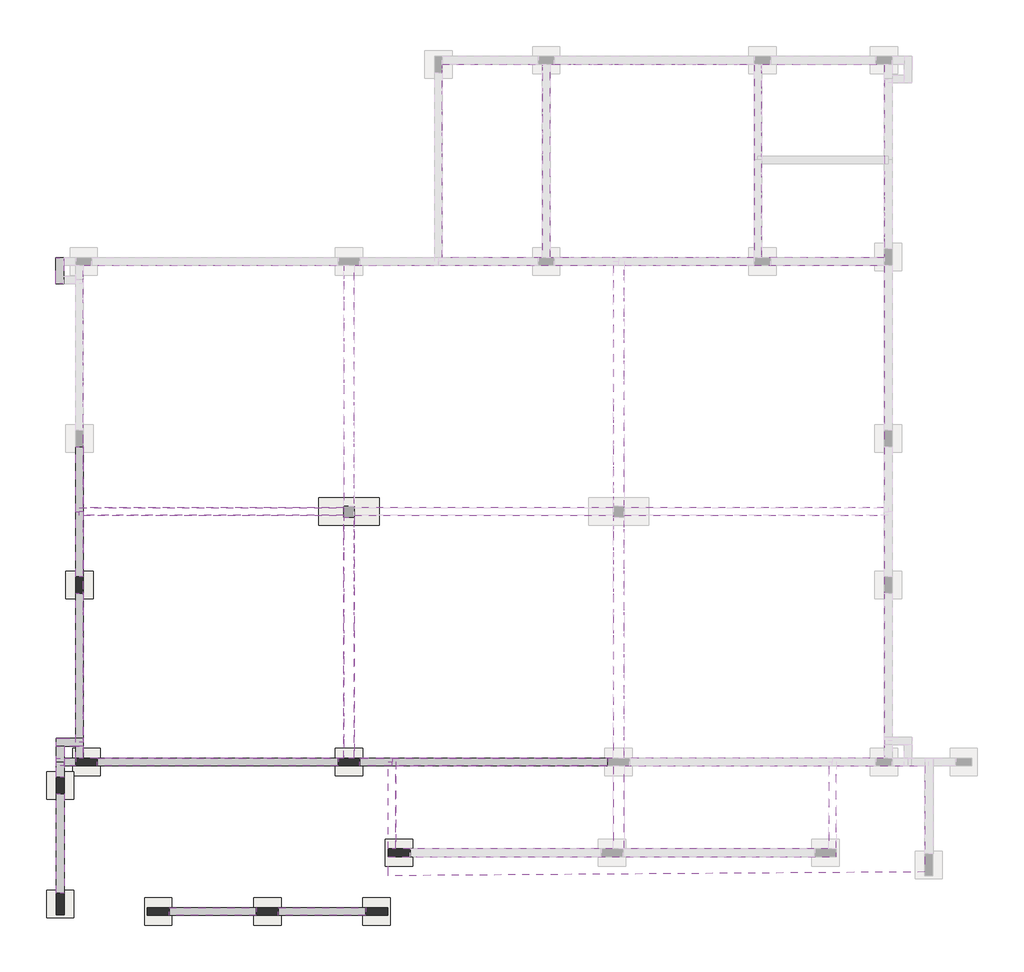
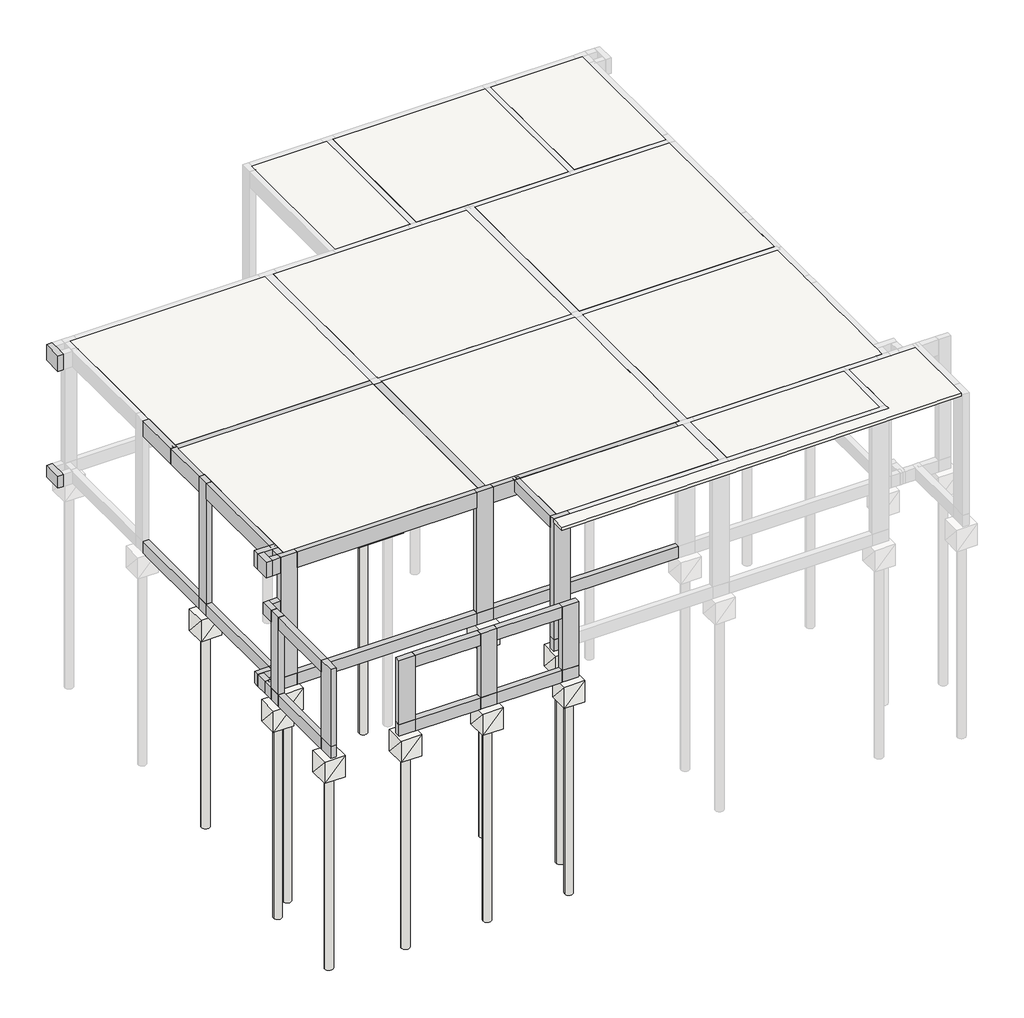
# One storey, part 1 of 3: 32 proxies, 32 slabs, 18 columns.
"""IFC4 building model written with IfcOpenShell, lengths in millimetres."""

from ifc_helpers import new_model, si_unit, frame, origin, place, context, project, spatial, polyline, outline, extrude, transform, mapped, element, save
from components import structural_framing_a2221eec, structural_framing_47468200, structural_framing_d9bc9a77, structural_framing_0b52b871, structural_framing_8d2376c2, structural_framing_396bdc43, structural_framing_0c08fe81, structural_framing_c48de238, structural_framing_7e0f138e, structural_framing_7747f7a7, structural_framing_4da262b5, structural_framing_986f890b, structural_framing_61e1da89, structural_framing_5a2c5dd1, structural_framing_02aedc1d, structural_framing_451fe4bc, structural_framing_79372c1d, structural_framing_6e33099d, structural_framing_2e0781ad, structural_framing_3535d77a, structural_framing_b05fb5b3, structural_framing_cfc1f98a, structural_framing_9f2234e0, structural_framing_bc256635, structural_framing_6112a48c, structural_framing_8a7f6f7c, structural_framing_0044cacd, slab_c764ccaf, slab_1d791855, slab_b31ccf51, slab_a00b09fe, slab_4ca8f48c, slab_9fd87269, slab_49124384, slab_84e29d04, slab_3418962d, slab_7e93051f, slab_90040733, slab_85f86137, slab_218659e0, slab_0752f4fd, slab_92ac87c9, slab_f5d0fd54, slab_b28d26c8

model = new_model("IFC4")

# Units and contexts
model_context = context("Model", 3, world=origin())
ifc_project = project(units=[si_unit("LENGTHUNIT", "METRE", prefix="MILLI")], contexts=[model_context])

# Site, building, storey
site = spatial("IfcSite", under=ifc_project)
building = spatial("IfcBuilding", under=site)
storey = spatial("IfcBuildingStorey", under=building, Name="BALDRAME-FUNDAÇÃO", Elevation=240.0)

# Proxies
placement = place(None, origin())
structural_framing_shape = structural_framing_a2221eec(model_context)
element("IfcBuildingElementProxy", 1, Name="Structural Framing", at=placement, inside=storey, context=model_context, shape_type="MappedRepresentation", body=[
    mapped(structural_framing_shape, transform((2792.8, 2810.0, 240.0), x_axis=(1.0, 0.0, 0.0), y_axis=(0.0, 1.0, 0.0), z_axis=(0.0, 0.0, 1.0))),
])
structural_framing_2_shape = structural_framing_47468200(model_context)
element("IfcBuildingElementProxy", 2, Name="Structural Framing", at=placement, inside=storey, context=model_context, shape_type="MappedRepresentation", body=[
    mapped(structural_framing_2_shape, transform((55.0, 2810.0, 240.0), x_axis=(1.0, 0.0, 0.0), y_axis=(0.0, 1.0, 0.0), z_axis=(0.0, 0.0, 1.0))),
])
structural_framing_3_shape = structural_framing_d9bc9a77(model_context)
element("IfcBuildingElementProxy", 3, Name="Structural Framing", at=placement, inside=storey, context=model_context, shape_type="MappedRepresentation", body=[
    mapped(structural_framing_3_shape, transform((7653.45, 2810.0, 240.0), x_axis=(1.0, 0.0, 0.0), y_axis=(0.0, 1.0, 0.0), z_axis=(0.0, 0.0, 1.0))),
])
structural_framing_4_shape = structural_framing_0b52b871(model_context)
element("IfcBuildingElementProxy", 4, Name="Structural Framing", at=placement, inside=storey, context=model_context, shape_type="MappedRepresentation", body=[
    mapped(structural_framing_4_shape, transform((-85.0, 2955.0599986, 240.0), x_axis=(1.0, 0.0, 0.0), y_axis=(0.0, 1.0, 0.0), z_axis=(0.0, 0.0, 1.0))),
])
structural_framing_5_shape = structural_framing_8d2376c2(model_context)
element("IfcBuildingElementProxy", 5, Name="Structural Framing", at=placement, inside=storey, context=model_context, shape_type="MappedRepresentation", body=[
    mapped(structural_framing_5_shape, transform((90.0, 3170.05, 240.0), x_axis=(1.0, 0.0, 0.0), y_axis=(0.0, 1.0, 0.0), z_axis=(0.0, 0.0, 1.0))),
])
structural_framing_6_shape = structural_framing_396bdc43(model_context)
element("IfcBuildingElementProxy", 6, Name="Structural Framing", at=placement, inside=storey, context=model_context, shape_type="MappedRepresentation", body=[
    mapped(structural_framing_6_shape, transform((265.0, 7382.6, 240.0), x_axis=(1.0, 0.0, 0.0), y_axis=(0.0, 1.0, 0.0), z_axis=(0.0, 0.0, 1.0))),
])
structural_framing_7_shape = structural_framing_0c08fe81(model_context)
element("IfcBuildingElementProxy", 7, Name="Structural Framing", at=placement, inside=storey, context=model_context, shape_type="MappedRepresentation", body=[
    mapped(structural_framing_7_shape, transform((-85.0, 2670.65, 240.0), x_axis=(1.0, 0.0, 0.0), y_axis=(0.0, 1.0, 0.0), z_axis=(0.0, 0.0, 1.0))),
])
structural_framing_8_shape = structural_framing_c48de238(model_context)
element("IfcBuildingElementProxy", 8, Name="Structural Framing", at=placement, inside=storey, context=model_context, shape_type="MappedRepresentation", body=[
    mapped(structural_framing_8_shape, transform((-85.0, 1323.15, 240.0), x_axis=(1.0, 0.0, 0.0), y_axis=(0.0, 1.0, 0.0), z_axis=(0.0, 0.0, 1.0))),
])
structural_framing_9_shape = structural_framing_7e0f138e(model_context)
element("IfcBuildingElementProxy", 9, Name="Structural Framing", at=placement, inside=storey, context=model_context, shape_type="MappedRepresentation", body=[
    mapped(structural_framing_9_shape, transform((4697.5, 75.0, 240.0), x_axis=(1.0, 0.0, 0.0), y_axis=(0.0, 1.0, 0.0), z_axis=(0.0, 0.0, 1.0))),
])
element("IfcBuildingElementProxy", 10, Name="Structural Framing", at=placement, inside=storey, context=model_context, shape_type="MappedRepresentation", body=[
    mapped(structural_framing_9_shape, transform((2702.5, 75.0, 240.0), x_axis=(1.0, 0.0, 0.0), y_axis=(0.0, 1.0, 0.0), z_axis=(0.0, 0.0, 1.0))),
])
structural_framing_10_shape = structural_framing_7747f7a7(model_context)
element("IfcBuildingElementProxy", 11, Name="Structural Framing", at=placement, inside=storey, context=model_context, shape_type="MappedRepresentation", body=[
    mapped(structural_framing_10_shape, transform((265.0, 4532.5, 240.0), x_axis=(1.0, 0.0, 0.0), y_axis=(0.0, 1.0, 0.0), z_axis=(0.0, 0.0, 1.0))),
])
structural_framing_11_shape = structural_framing_4da262b5(model_context)
element("IfcBuildingElementProxy", 12, Name="Structural Framing", at=placement, inside=storey, context=model_context, shape_type="MappedRepresentation", body=[
    mapped(structural_framing_11_shape, transform((265.0, 2990.0099986, 240.0), x_axis=(1.0, 0.0, 0.0), y_axis=(0.0, 1.0, 0.0), z_axis=(0.0, 0.0, 1.0))),
])
structural_framing_12_shape = structural_framing_986f890b(model_context)
element("IfcBuildingElementProxy", 13, Name="Structural Framing", at=placement, inside=storey, context=model_context, shape_type="MappedRepresentation", body=[
    mapped(structural_framing_12_shape, transform((-95.0, 11785.2, 240.0), x_axis=(1.0, 0.0, 0.0), y_axis=(0.0, 1.0, 0.0), z_axis=(0.0, 0.0, 1.0))),
])
structural_framing_13_shape = structural_framing_61e1da89(model_context)
element("IfcBuildingElementProxy", 14, Name="Structural Framing", at=placement, inside=storey, context=model_context, shape_type="MappedRepresentation", body=[
    mapped(structural_framing_13_shape, transform((-85.0, 2705.6625022, 2240.0), x_axis=(1.0, 0.0, 0.0), y_axis=(0.0, 1.0, 0.0), z_axis=(0.0, 0.0, 1.0))),
])
element("IfcBuildingElementProxy", 15, Name="Structural Framing", at=placement, inside=storey, context=model_context, shape_type="MappedRepresentation", body=[
    mapped(structural_framing_8_shape, transform((-85.0, 1323.15, 2240.0), x_axis=(1.0, 0.0, 0.0), y_axis=(0.0, 1.0, 0.0), z_axis=(0.0, 0.0, 1.0))),
])
structural_framing_14_shape = structural_framing_5a2c5dd1(model_context)
element("IfcBuildingElementProxy", 16, Name="Structural Framing", at=placement, inside=storey, context=model_context, shape_type="MappedRepresentation", body=[
    mapped(structural_framing_14_shape, transform((5190.6, 5081.3, 3360.0), x_axis=(1.0, 0.0, 0.0), y_axis=(0.0, 1.0, 0.0), z_axis=(0.0, 0.0, 1.0))),
])
structural_framing_15_shape = structural_framing_02aedc1d(model_context)
element("IfcBuildingElementProxy", 17, Name="Structural Framing", at=placement, inside=storey, context=model_context, shape_type="MappedRepresentation", body=[
    mapped(structural_framing_15_shape, transform((265.0, 4532.5, 3360.0), x_axis=(1.0, 0.0, 0.0), y_axis=(0.0, 1.0, 0.0), z_axis=(0.0, 0.0, 1.0))),
])
structural_framing_16_shape = structural_framing_451fe4bc(model_context)
element("IfcBuildingElementProxy", 18, Name="Structural Framing", at=placement, inside=storey, context=model_context, shape_type="MappedRepresentation", body=[
    mapped(structural_framing_16_shape, transform((265.0, 2987.5, 3360.0), x_axis=(1.0, 0.0, 0.0), y_axis=(0.0, 1.0, 0.0), z_axis=(0.0, 0.0, 1.0))),
])
structural_framing_17_shape = structural_framing_79372c1d(model_context)
element("IfcBuildingElementProxy", 19, Name="Structural Framing", at=placement, inside=storey, context=model_context, shape_type="MappedRepresentation", body=[
    mapped(structural_framing_17_shape, transform((2677.8, 7382.6, 3360.0), x_axis=(1.0, 0.0, 0.0), y_axis=(0.0, 1.0, 0.0), z_axis=(0.0, 0.0, 1.0))),
])
structural_framing_18_shape = structural_framing_6e33099d(model_context)
element("IfcBuildingElementProxy", 20, Name="Structural Framing", at=placement, inside=storey, context=model_context, shape_type="MappedRepresentation", body=[
    mapped(structural_framing_18_shape, transform((89.9875, 2809.9375045, 2240.0), x_axis=(1.0, 0.0, 0.0), y_axis=(0.0, 1.0, 0.0), z_axis=(0.0, 0.0, 1.0))),
])
structural_framing_19_shape = structural_framing_2e0781ad(model_context)
element("IfcBuildingElementProxy", 21, Name="Structural Framing", at=placement, inside=storey, context=model_context, shape_type="MappedRepresentation", body=[
    mapped(structural_framing_19_shape, transform((-85.0, 2917.4866049, 3360.0), x_axis=(1.0, 0.0, 0.0), y_axis=(0.0, 1.0, 0.0), z_axis=(0.0, 0.0, 1.0))),
])
structural_framing_20_shape = structural_framing_3535d77a(model_context)
element("IfcBuildingElementProxy", 22, Name="Structural Framing", at=placement, inside=storey, context=model_context, shape_type="MappedRepresentation", body=[
    mapped(structural_framing_20_shape, transform((87.5, 3170.0, 3360.0), x_axis=(1.0, 0.0, 0.0), y_axis=(0.0, 1.0, 0.0), z_axis=(0.0, 0.0, 1.0))),
])
structural_framing_21_shape = structural_framing_b05fb5b3(model_context)
element("IfcBuildingElementProxy", 23, Name="Structural Framing", at=placement, inside=storey, context=model_context, shape_type="MappedRepresentation", body=[
    mapped(structural_framing_21_shape, transform((-95.0, 11785.2, 3360.0), x_axis=(1.0, 0.0, 0.0), y_axis=(0.0, 1.0, 0.0), z_axis=(0.0, 0.0, 1.0))),
])
element("IfcBuildingElementProxy", 24, Name="Structural Framing", at=placement, inside=storey, context=model_context, shape_type="MappedRepresentation", body=[
    mapped(structural_framing_9_shape, transform((2702.5, 75.0, 1890.0), x_axis=(1.0, 0.0, 0.0), y_axis=(0.0, 1.0, 0.0), z_axis=(0.0, 0.0, 1.0))),
])
element("IfcBuildingElementProxy", 25, Name="Structural Framing", at=placement, inside=storey, context=model_context, shape_type="MappedRepresentation", body=[
    mapped(structural_framing_9_shape, transform((4697.5, 75.0, 1890.0), x_axis=(1.0, 0.0, 0.0), y_axis=(0.0, 1.0, 0.0), z_axis=(0.0, 0.0, 1.0))),
])
structural_framing_22_shape = structural_framing_cfc1f98a(model_context)
element("IfcBuildingElementProxy", 26, Name="Structural Framing", at=placement, inside=storey, context=model_context, shape_type="MappedRepresentation", body=[
    mapped(structural_framing_22_shape, transform((7946.6, 2810.0, 3360.0), x_axis=(1.0, 0.0, 0.0), y_axis=(0.0, 1.0, 0.0), z_axis=(0.0, 0.0, 1.0))),
])
structural_framing_23_shape = structural_framing_9f2234e0(model_context)
element("IfcBuildingElementProxy", 27, Name="Structural Framing", at=placement, inside=storey, context=model_context, shape_type="MappedRepresentation", body=[
    mapped(structural_framing_23_shape, transform((5683.75, 2810.0, 3360.0), x_axis=(1.0, 0.0, 0.0), y_axis=(0.0, 1.0, 0.0), z_axis=(0.0, 0.0, 1.0))),
])
structural_framing_24_shape = structural_framing_bc256635(model_context)
element("IfcBuildingElementProxy", 28, Name="Structural Framing", at=placement, inside=storey, context=model_context, shape_type="MappedRepresentation", body=[
    mapped(structural_framing_24_shape, transform((5976.9, 2015.0, 3360.0), x_axis=(1.0, 0.0, 0.0), y_axis=(0.0, 1.0, 0.0), z_axis=(0.0, 0.0, 1.0))),
])
structural_framing_25_shape = structural_framing_6112a48c(model_context)
element("IfcBuildingElementProxy", 29, Name="Structural Framing", at=placement, inside=storey, context=model_context, shape_type="MappedRepresentation", body=[
    mapped(structural_framing_25_shape, transform((2792.8, 2809.95, 3360.0), x_axis=(1.0, 0.0, 0.0), y_axis=(0.0, 1.0, 0.0), z_axis=(0.0, 0.0, 1.0))),
])
structural_framing_26_shape = structural_framing_8a7f6f7c(model_context)
element("IfcBuildingElementProxy", 30, Name="Structural Framing", at=placement, inside=storey, context=model_context, shape_type="MappedRepresentation", body=[
    mapped(structural_framing_26_shape, transform((92.4875, 2809.9366116, 3360.0), x_axis=(1.0, 0.0, 0.0), y_axis=(0.0, 1.0, 0.0), z_axis=(0.0, 0.0, 1.0))),
])
structural_framing_27_shape = structural_framing_0044cacd(model_context)
element("IfcBuildingElementProxy", 31, Name="Structural Framing", at=placement, inside=storey, context=model_context, shape_type="MappedRepresentation", body=[
    mapped(structural_framing_27_shape, transform((265.0, 6788.8, 3360.0), x_axis=(1.0, 0.0, 0.0), y_axis=(0.0, 1.0, 0.0), z_axis=(0.0, 0.0, 1.0))),
])
element("IfcBuildingElementProxy", 32, Name="Structural Framing", at=placement, inside=storey, context=model_context, shape_type="MappedRepresentation", body=[
    mapped(structural_framing_27_shape, transform((265.0, 7976.4, 3360.0), x_axis=(1.0, 0.0, 0.0), y_axis=(0.0, 1.0, 0.0), z_axis=(0.0, 0.0, 1.0))),
])

# Columns
element("IfcColumn", 33, at=placement, inside=storey, context=model_context, shape_type="SweptSolid", body=[
    extrude(outline(polyline([(595.0, 2880.0), (595.0, 2740.0), (195.0, 2740.0), (195.0, 2880.0), (595.0, 2880.0)])), frame((0.0, 0.0, -60.0), z_axis=(0.0, 0.0, 1.0), x_axis=(1.0, 0.0, 0.0)), (0.0, 0.0, 1.0), 300.0),
    extrude(outline(polyline([(595.0, 2880.0), (595.0, 2740.0), (195.0, 2740.0), (195.0, 2880.0), (595.0, 2880.0)])), frame((0.0, 0.0, -60.0), z_axis=(0.0, 0.0, 1.0), x_axis=(1.0, 0.0, 0.0)), (0.0, 0.0, 1.0), 300.0),
])
element("IfcColumn", 34, at=placement, inside=storey, context=model_context, shape_type="SweptSolid", body=[
    extrude(outline(polyline([(-15.0, 2231.3), (-155.0, 2231.3), (-155.0, 2531.3), (-15.0, 2531.3), (-15.0, 2231.3)])), frame((0.0, 0.0, -60.0), z_axis=(0.0, 0.0, 1.0), x_axis=(1.0, 0.0, 0.0)), (0.0, 0.0, 1.0), 300.0),
    extrude(outline(polyline([(-15.0, 2231.3), (-155.0, 2231.3), (-155.0, 2531.3), (-15.0, 2531.3), (-15.0, 2231.3)])), frame((0.0, 0.0, -60.0), z_axis=(0.0, 0.0, 1.0), x_axis=(1.0, 0.0, 0.0)), (0.0, 0.0, 1.0), 300.0),
])
element("IfcColumn", 35, at=placement, inside=storey, context=model_context, shape_type="SweptSolid", body=[
    extrude(outline(polyline([(195.0, 6195.0), (335.0, 6195.0), (335.0, 5895.0), (195.0, 5895.0), (195.0, 6195.0)])), frame((0.0, 0.0, -60.0), z_axis=(0.0, 0.0, 1.0), x_axis=(1.0, 0.0, 0.0)), (0.0, 0.0, 1.0), 300.0),
    extrude(outline(polyline([(195.0, 6195.0), (335.0, 6195.0), (335.0, 5895.0), (195.0, 5895.0), (195.0, 6195.0)])), frame((0.0, 0.0, -60.0), z_axis=(0.0, 0.0, 1.0), x_axis=(1.0, 0.0, 0.0)), (0.0, 0.0, 1.0), 300.0),
])
element("IfcColumn", 36, at=placement, inside=storey, context=model_context, shape_type="SweptSolid", body=[
    extrude(outline(polyline([(1905.0, 145.0), (1905.0, 5.0), (1505.0, 5.0), (1505.0, 145.0), (1905.0, 145.0)])), frame((0.0, 0.0, -60.0), z_axis=(0.0, 0.0, 1.0), x_axis=(1.0, 0.0, 0.0)), (0.0, 0.0, 1.0), 300.0),
    extrude(outline(polyline([(1905.0, 145.0), (1905.0, 5.0), (1505.0, 5.0), (1505.0, 145.0), (1905.0, 145.0)])), frame((0.0, 0.0, -60.0), z_axis=(0.0, 0.0, 1.0), x_axis=(1.0, 0.0, 0.0)), (0.0, 0.0, 1.0), 300.0),
])
element("IfcColumn", 37, at=placement, inside=storey, context=model_context, shape_type="SweptSolid", body=[
    extrude(outline(polyline([(5390.6, 2880.0), (5390.6, 2740.0), (4990.6, 2740.0), (4990.6, 2880.0), (5390.6, 2880.0)])), frame((0.0, 0.0, -60.0), z_axis=(0.0, 0.0, 1.0), x_axis=(1.0, 0.0, 0.0)), (0.0, 0.0, 1.0), 300.0),
    extrude(outline(polyline([(5390.6, 2880.0), (5390.6, 2740.0), (4990.6, 2740.0), (4990.6, 2880.0), (5390.6, 2880.0)])), frame((0.0, 0.0, -60.0), z_axis=(0.0, 0.0, 1.0), x_axis=(1.0, 0.0, 0.0)), (0.0, 0.0, 1.0), 300.0),
])
element("IfcColumn", 38, at=placement, inside=storey, context=model_context, shape_type="SweptSolid", body=[
    extrude(outline(polyline([(3900.0, 145.0), (3900.0, 5.0), (3500.0, 5.0), (3500.0, 145.0), (3900.0, 145.0)])), frame((0.0, 0.0, -60.0), z_axis=(0.0, 0.0, 1.0), x_axis=(1.0, 0.0, 0.0)), (0.0, 0.0, 1.0), 300.0),
    extrude(outline(polyline([(3900.0, 145.0), (3900.0, 5.0), (3500.0, 5.0), (3500.0, 145.0), (3900.0, 145.0)])), frame((0.0, 0.0, -60.0), z_axis=(0.0, 0.0, 1.0), x_axis=(1.0, 0.0, 0.0)), (0.0, 0.0, 1.0), 300.0),
])
element("IfcColumn", 39, at=placement, inside=storey, context=model_context, shape_type="SweptSolid", body=[
    extrude(outline(polyline([(5895.0, 145.0), (5895.0, 5.0), (5495.0, 5.0), (5495.0, 145.0), (5895.0, 145.0)])), frame((0.0, 0.0, -60.0), z_axis=(0.0, 0.0, 1.0), x_axis=(1.0, 0.0, 0.0)), (0.0, 0.0, 1.0), 300.0),
    extrude(outline(polyline([(5895.0, 145.0), (5895.0, 5.0), (5495.0, 5.0), (5495.0, 145.0), (5895.0, 145.0)])), frame((0.0, 0.0, -60.0), z_axis=(0.0, 0.0, 1.0), x_axis=(1.0, 0.0, 0.0)), (0.0, 0.0, 1.0), 300.0),
])
element("IfcColumn", 40, at=placement, inside=storey, context=model_context, shape_type="SweptSolid", body=[
    extrude(outline(polyline([(6306.9, 1220.0), (6306.9, 1080.0), (5906.9, 1080.0), (5906.9, 1220.0), (6306.9, 1220.0)])), frame((0.0, 0.0, -60.0), z_axis=(0.0, 0.0, 1.0), x_axis=(1.0, 0.0, 0.0)), (0.0, 0.0, 1.0), 300.0),
    extrude(outline(polyline([(6306.9, 1220.0), (6306.9, 1080.0), (5906.9, 1080.0), (5906.9, 1220.0), (6306.9, 1220.0)])), frame((0.0, 0.0, -60.0), z_axis=(0.0, 0.0, 1.0), x_axis=(1.0, 0.0, 0.0)), (0.0, 0.0, 1.0), 300.0),
])
element("IfcColumn", 41, at=placement, inside=storey, context=model_context, shape_type="SweptSolid", body=[
    extrude(outline(polyline([(-15.0, 15.0), (-155.0, 15.0), (-155.0, 415.0), (-15.0, 415.0), (-15.0, 15.0)])), frame((0.0, 0.0, -60.0), z_axis=(0.0, 0.0, 1.0), x_axis=(1.0, 0.0, 0.0)), (0.0, 0.0, 1.0), 300.0),
    extrude(outline(polyline([(-15.0, 15.0), (-155.0, 15.0), (-155.0, 415.0), (-15.0, 415.0), (-15.0, 15.0)])), frame((0.0, 0.0, -60.0), z_axis=(0.0, 0.0, 1.0), x_axis=(1.0, 0.0, 0.0)), (0.0, 0.0, 1.0), 300.0),
])
element("IfcColumn", 42, at=placement, inside=storey, context=model_context, shape_type="SweptSolid", body=[
    extrude(outline(polyline([(595.0, 2880.0), (595.0, 2740.0), (195.0, 2740.0), (195.0, 2880.0), (595.0, 2880.0)])), frame((0.0, 0.0, 240.0), z_axis=(0.0, 0.0, 1.0), x_axis=(1.0, 0.0, 0.0)), (0.0, 0.0, 1.0), 3120.0),
    extrude(outline(polyline([(595.0, 2880.0), (595.0, 2740.0), (195.0, 2740.0), (195.0, 2880.0), (595.0, 2880.0)])), frame((0.0, 0.0, 240.0), z_axis=(0.0, 0.0, 1.0), x_axis=(1.0, 0.0, 0.0)), (0.0, 0.0, 1.0), 3120.0),
])
element("IfcColumn", 43, at=placement, inside=storey, context=model_context, shape_type="SweptSolid", body=[
    extrude(outline(polyline([(5390.6, 2880.0), (5390.6, 2740.0), (4990.6, 2740.0), (4990.6, 2880.0), (5390.6, 2880.0)])), frame((0.0, 0.0, 240.0), z_axis=(0.0, 0.0, 1.0), x_axis=(1.0, 0.0, 0.0)), (0.0, 0.0, 1.0), 3120.0),
    extrude(outline(polyline([(5390.6, 2880.0), (5390.6, 2740.0), (4990.6, 2740.0), (4990.6, 2880.0), (5390.6, 2880.0)])), frame((0.0, 0.0, 240.0), z_axis=(0.0, 0.0, 1.0), x_axis=(1.0, 0.0, 0.0)), (0.0, 0.0, 1.0), 3120.0),
])
element("IfcColumn", 44, at=placement, inside=storey, context=model_context, shape_type="SweptSolid", body=[
    extrude(outline(polyline([(-15.0, 2231.3), (-155.0, 2231.3), (-155.0, 2531.3), (-15.0, 2531.3), (-15.0, 2231.3)])), frame((0.0, 0.0, 240.0), z_axis=(0.0, 0.0, 1.0), x_axis=(1.0, 0.0, 0.0)), (0.0, 0.0, 1.0), 2000.0),
    extrude(outline(polyline([(-15.0, 2231.3), (-155.0, 2231.3), (-155.0, 2531.3), (-15.0, 2531.3), (-15.0, 2231.3)])), frame((0.0, 0.0, 240.0), z_axis=(0.0, 0.0, 1.0), x_axis=(1.0, 0.0, 0.0)), (0.0, 0.0, 1.0), 2000.0),
])
element("IfcColumn", 45, at=placement, inside=storey, context=model_context, shape_type="SweptSolid", body=[
    extrude(outline(polyline([(195.0, 6195.0), (335.0, 6195.0), (335.0, 5895.0), (195.0, 5895.0), (195.0, 6195.0)])), frame((0.0, 0.0, 240.0), z_axis=(0.0, 0.0, 1.0), x_axis=(1.0, 0.0, 0.0)), (0.0, 0.0, 1.0), 3120.0),
    extrude(outline(polyline([(195.0, 6195.0), (335.0, 6195.0), (335.0, 5895.0), (195.0, 5895.0), (195.0, 6195.0)])), frame((0.0, 0.0, 240.0), z_axis=(0.0, 0.0, 1.0), x_axis=(1.0, 0.0, 0.0)), (0.0, 0.0, 1.0), 3120.0),
])
element("IfcColumn", 46, at=placement, inside=storey, context=model_context, shape_type="SweptSolid", body=[
    extrude(outline(polyline([(6306.9, 1220.0), (6306.9, 1080.0), (5906.9, 1080.0), (5906.9, 1220.0), (6306.9, 1220.0)])), frame((0.0, 0.0, 240.0), z_axis=(0.0, 0.0, 1.0), x_axis=(1.0, 0.0, 0.0)), (0.0, 0.0, 1.0), 3120.0),
    extrude(outline(polyline([(6306.9, 1220.0), (6306.9, 1080.0), (5906.9, 1080.0), (5906.9, 1220.0), (6306.9, 1220.0)])), frame((0.0, 0.0, 240.0), z_axis=(0.0, 0.0, 1.0), x_axis=(1.0, 0.0, 0.0)), (0.0, 0.0, 1.0), 3120.0),
])
element("IfcColumn", 47, at=placement, inside=storey, context=model_context, shape_type="SweptSolid", body=[
    extrude(outline(polyline([(1905.0, 145.0), (1905.0, 5.0), (1505.0, 5.0), (1505.0, 145.0), (1905.0, 145.0)])), frame((0.0, 0.0, 240.0), z_axis=(0.0, 0.0, 1.0), x_axis=(1.0, 0.0, 0.0)), (0.0, 0.0, 1.0), 1650.0),
    extrude(outline(polyline([(1905.0, 145.0), (1905.0, 5.0), (1505.0, 5.0), (1505.0, 145.0), (1905.0, 145.0)])), frame((0.0, 0.0, 240.0), z_axis=(0.0, 0.0, 1.0), x_axis=(1.0, 0.0, 0.0)), (0.0, 0.0, 1.0), 1650.0),
])
element("IfcColumn", 48, at=placement, inside=storey, context=model_context, shape_type="SweptSolid", body=[
    extrude(outline(polyline([(5895.0, 145.0), (5895.0, 5.0), (5495.0, 5.0), (5495.0, 145.0), (5895.0, 145.0)])), frame((0.0, 0.0, 240.0), z_axis=(0.0, 0.0, 1.0), x_axis=(1.0, 0.0, 0.0)), (0.0, 0.0, 1.0), 1650.0),
    extrude(outline(polyline([(5895.0, 145.0), (5895.0, 5.0), (5495.0, 5.0), (5495.0, 145.0), (5895.0, 145.0)])), frame((0.0, 0.0, 240.0), z_axis=(0.0, 0.0, 1.0), x_axis=(1.0, 0.0, 0.0)), (0.0, 0.0, 1.0), 1650.0),
])
element("IfcColumn", 49, at=placement, inside=storey, context=model_context, shape_type="SweptSolid", body=[
    extrude(outline(polyline([(3900.0, 145.0), (3900.0, 5.0), (3500.0, 5.0), (3500.0, 145.0), (3900.0, 145.0)])), frame((0.0, 0.0, 240.0), z_axis=(0.0, 0.0, 1.0), x_axis=(1.0, 0.0, 0.0)), (0.0, 0.0, 1.0), 1650.0),
    extrude(outline(polyline([(3900.0, 145.0), (3900.0, 5.0), (3500.0, 5.0), (3500.0, 145.0), (3900.0, 145.0)])), frame((0.0, 0.0, 240.0), z_axis=(0.0, 0.0, 1.0), x_axis=(1.0, 0.0, 0.0)), (0.0, 0.0, 1.0), 1650.0),
])
element("IfcColumn", 50, at=placement, inside=storey, context=model_context, shape_type="SweptSolid", body=[
    extrude(outline(polyline([(-15.0, 15.0), (-155.0, 15.0), (-155.0, 415.0), (-15.0, 415.0), (-15.0, 15.0)])), frame((0.0, 0.0, 240.0), z_axis=(0.0, 0.0, 1.0), x_axis=(1.0, 0.0, 0.0)), (0.0, 0.0, 1.0), 2000.0),
    extrude(outline(polyline([(-15.0, 15.0), (-155.0, 15.0), (-155.0, 415.0), (-15.0, 415.0), (-15.0, 15.0)])), frame((0.0, 0.0, 240.0), z_axis=(0.0, 0.0, 1.0), x_axis=(1.0, 0.0, 0.0)), (0.0, 0.0, 1.0), 2000.0),
])

# Slabs
slab_shape = slab_c764ccaf(model_context)
element("IfcSlab", 51, at=placement, inside=storey, context=model_context, shape_type="MappedRepresentation", body=[
    mapped(slab_shape, transform((395.0, 2810.0, -60.0), x_axis=(1.0, 0.0, 0.0), y_axis=(0.0, 1.0, 0.0), z_axis=(0.0, 0.0, 1.0))),
])
slab_2_shape = slab_1d791855(model_context)
element("IfcSlab", 52, at=placement, inside=storey, context=model_context, shape_type="MappedRepresentation", body=[
    mapped(slab_2_shape, transform((395.0, 2810.0, -460.0), x_axis=(1.0, 0.0, 0.0), y_axis=(0.0, 1.0, 0.0), z_axis=(0.0, 0.0, 1.0))),
])
element("IfcSlab", 53, at=placement, inside=storey, context=model_context, shape_type="MappedRepresentation", body=[
    mapped(slab_shape, transform((5190.6, 2810.0, -60.0), x_axis=(1.0, 0.0, 0.0), y_axis=(0.0, 1.0, 0.0), z_axis=(0.0, 0.0, 1.0))),
])
element("IfcSlab", 54, at=placement, inside=storey, context=model_context, shape_type="MappedRepresentation", body=[
    mapped(slab_2_shape, transform((5190.6, 2810.0, -460.0), x_axis=(1.0, 0.0, 0.0), y_axis=(0.0, 1.0, 0.0), z_axis=(0.0, 0.0, 1.0))),
])
element("IfcSlab", 55, at=placement, inside=storey, context=model_context, shape_type="MappedRepresentation", body=[
    mapped(slab_shape, transform((3700.0, 75.0, -60.0), x_axis=(1.0, 0.0, 0.0), y_axis=(0.0, 1.0, 0.0), z_axis=(0.0, 0.0, 1.0))),
])
element("IfcSlab", 56, at=placement, inside=storey, context=model_context, shape_type="MappedRepresentation", body=[
    mapped(slab_shape, transform((6106.9, 1150.0, -60.0), x_axis=(1.0, 0.0, 0.0), y_axis=(0.0, 1.0, 0.0), z_axis=(0.0, 0.0, 1.0))),
])
element("IfcSlab", 57, at=placement, inside=storey, context=model_context, shape_type="MappedRepresentation", body=[
    mapped(slab_2_shape, transform((6106.9, 1150.0, -460.0), x_axis=(1.0, 0.0, 0.0), y_axis=(0.0, 1.0, 0.0), z_axis=(0.0, 0.0, 1.0))),
])
element("IfcSlab", 58, at=placement, inside=storey, context=model_context, shape_type="MappedRepresentation", body=[
    mapped(slab_shape, transform((1705.0, 75.0, -60.0), x_axis=(1.0, 0.0, 0.0), y_axis=(0.0, 1.0, 0.0), z_axis=(0.0, 0.0, 1.0))),
])
element("IfcSlab", 59, at=placement, inside=storey, context=model_context, shape_type="MappedRepresentation", body=[
    mapped(slab_2_shape, transform((1705.0, 75.0, -460.0), x_axis=(1.0, 0.0, 0.0), y_axis=(0.0, 1.0, 0.0), z_axis=(0.0, 0.0, 1.0))),
])
element("IfcSlab", 60, at=placement, inside=storey, context=model_context, shape_type="MappedRepresentation", body=[
    mapped(slab_2_shape, transform((3700.0, 75.0, -460.0), x_axis=(1.0, 0.0, 0.0), y_axis=(0.0, 1.0, 0.0), z_axis=(0.0, 0.0, 1.0))),
])
element("IfcSlab", 61, at=placement, inside=storey, context=model_context, shape_type="MappedRepresentation", body=[
    mapped(slab_shape, transform((5695.0, 75.0, -60.0), x_axis=(1.0, 0.0, 0.0), y_axis=(0.0, 1.0, 0.0), z_axis=(0.0, 0.0, 1.0))),
])
element("IfcSlab", 62, at=placement, inside=storey, context=model_context, shape_type="MappedRepresentation", body=[
    mapped(slab_2_shape, transform((5695.0, 75.0, -460.0), x_axis=(1.0, 0.0, 0.0), y_axis=(0.0, 1.0, 0.0), z_axis=(0.0, 0.0, 1.0))),
])
slab_3_shape = slab_b31ccf51(model_context)
element("IfcSlab", 63, at=placement, inside=storey, context=model_context, shape_type="MappedRepresentation", body=[
    mapped(slab_3_shape, transform((265.0, 6045.0, -60.0), x_axis=(1.0, 0.0, 0.0), y_axis=(0.0, 1.0, 0.0), z_axis=(0.0, 0.0, 1.0))),
])
element("IfcSlab", 64, at=placement, inside=storey, context=model_context, shape_type="MappedRepresentation", body=[
    mapped(slab_2_shape, transform((265.0, 6045.0, -460.0), x_axis=(1.0, 0.0, 0.0), y_axis=(0.0, 1.0, 0.0), z_axis=(0.0, 0.0, 1.0))),
])
slab_4_shape = slab_a00b09fe(model_context)
element("IfcSlab", 65, at=placement, inside=storey, context=model_context, shape_type="MappedRepresentation", body=[
    mapped(slab_4_shape, transform((-85.0, 215.0, -60.0), x_axis=(1.0, 0.0, 0.0), y_axis=(0.0, 1.0, 0.0), z_axis=(0.0, 0.0, 1.0))),
])
element("IfcSlab", 66, at=placement, inside=storey, context=model_context, shape_type="MappedRepresentation", body=[
    mapped(slab_2_shape, transform((-85.0, 215.0, -460.0), x_axis=(1.0, 0.0, 0.0), y_axis=(0.0, 1.0, 0.0), z_axis=(0.0, 0.0, 1.0))),
])
element("IfcSlab", 67, at=placement, inside=storey, context=model_context, shape_type="MappedRepresentation", body=[
    mapped(slab_4_shape, transform((-85.0, 2381.3, -60.0), x_axis=(1.0, 0.0, 0.0), y_axis=(0.0, 1.0, 0.0), z_axis=(0.0, 0.0, 1.0))),
])
element("IfcSlab", 68, at=placement, inside=storey, context=model_context, shape_type="MappedRepresentation", body=[
    mapped(slab_2_shape, transform((-85.0, 2381.3, -460.0), x_axis=(1.0, 0.0, 0.0), y_axis=(0.0, 1.0, 0.0), z_axis=(0.0, 0.0, 1.0))),
])
slab_5_shape = slab_4ca8f48c(model_context)
element("IfcSlab", 69, at=placement, inside=storey, context=model_context, shape_type="MappedRepresentation", body=[
    mapped(slab_5_shape, transform((5190.6, 7382.6, -60.0), x_axis=(1.0, 0.0, 0.0), y_axis=(0.0, 1.0, 0.0), z_axis=(0.0, 0.0, 1.0))),
])
element("IfcSlab", 70, at=placement, inside=storey, context=model_context, shape_type="MappedRepresentation", body=[
    mapped(slab_2_shape, transform((4890.6, 7382.6, -460.0), x_axis=(1.0, 0.0, 0.0), y_axis=(0.0, 1.0, 0.0), z_axis=(0.0, 0.0, 1.0))),
])
slab_6_shape = slab_9fd87269(model_context)
element("IfcSlab", 71, at=placement, inside=storey, context=model_context, shape_type="MappedRepresentation", body=[
    mapped(slab_6_shape, transform((10807.105, 1735.0, 3360.0), x_axis=(1.0, 0.0, 0.0), y_axis=(0.0, 1.0, 0.0), z_axis=(0.0, 0.0, 1.0))),
])
slab_7_shape = slab_49124384(model_context)
element("IfcSlab", 72, at=placement, inside=storey, context=model_context, shape_type="MappedRepresentation", body=[
    mapped(slab_7_shape, transform((12084.1, 1980.0, 3360.0), x_axis=(1.0, 0.0, 0.0), y_axis=(0.0, 1.0, 0.0), z_axis=(0.0, 0.0, 1.0))),
])
slab_8_shape = slab_84e29d04(model_context)
element("IfcSlab", 73, at=placement, inside=storey, context=model_context, shape_type="MappedRepresentation", body=[
    mapped(slab_8_shape, transform((8031.6, 1980.0, 3360.0), x_axis=(1.0, 0.0, 0.0), y_axis=(0.0, 1.0, 0.0), z_axis=(0.0, 0.0, 1.0))),
])
slab_9_shape = slab_3418962d(model_context)
element("IfcSlab", 74, at=placement, inside=storey, context=model_context, shape_type="MappedRepresentation", body=[
    mapped(slab_9_shape, transform((2712.8, 9668.895, 3360.0), x_axis=(1.0, 0.0, 0.0), y_axis=(0.0, 1.0, 0.0), z_axis=(0.0, 0.0, 1.0))),
])
slab_10_shape = slab_7e93051f(model_context)
element("IfcSlab", 75, at=placement, inside=storey, context=model_context, shape_type="MappedRepresentation", body=[
    mapped(slab_10_shape, transform((7653.45, 9668.895, 3360.0), x_axis=(1.0, 0.0, 0.0), y_axis=(0.0, 1.0, 0.0), z_axis=(0.0, 0.0, 1.0))),
])
slab_11_shape = slab_90040733(model_context)
element("IfcSlab", 76, at=placement, inside=storey, context=model_context, shape_type="MappedRepresentation", body=[
    mapped(slab_11_shape, transform((7653.45, 5096.3, 3360.0), x_axis=(1.0, 0.0, 0.0), y_axis=(0.0, 1.0, 0.0), z_axis=(0.0, 0.0, 1.0))),
])
slab_12_shape = slab_85f86137(model_context)
element("IfcSlab", 77, at=placement, inside=storey, context=model_context, shape_type="MappedRepresentation", body=[
    mapped(slab_12_shape, transform((12594.1, 5096.3, 3360.0), x_axis=(1.0, 0.0, 0.0), y_axis=(0.0, 1.0, 0.0), z_axis=(0.0, 0.0, 1.0))),
])
slab_13_shape = slab_218659e0(model_context)
element("IfcSlab", 78, at=placement, inside=storey, context=model_context, shape_type="MappedRepresentation", body=[
    mapped(slab_13_shape, transform((12594.1, 9668.9, 3360.0), x_axis=(1.0, 0.0, 0.0), y_axis=(0.0, 1.0, 0.0), z_axis=(0.0, 0.0, 1.0))),
])
slab_14_shape = slab_0752f4fd(model_context)
element("IfcSlab", 79, at=placement, inside=storey, context=model_context, shape_type="MappedRepresentation", body=[
    mapped(slab_14_shape, transform((7808.8, 13792.6, 3360.0), x_axis=(1.0, 0.0, 0.0), y_axis=(0.0, 1.0, 0.0), z_axis=(0.0, 0.0, 1.0))),
])
slab_15_shape = slab_92ac87c9(model_context)
element("IfcSlab", 80, at=placement, inside=storey, context=model_context, shape_type="MappedRepresentation", body=[
    mapped(slab_15_shape, transform((10728.0, 13792.6, 3360.0), x_axis=(1.0, 0.0, 0.0), y_axis=(0.0, 1.0, 0.0), z_axis=(0.0, 0.0, 1.0))),
])
slab_16_shape = slab_f5d0fd54(model_context)
element("IfcSlab", 81, at=placement, inside=storey, context=model_context, shape_type="MappedRepresentation", body=[
    mapped(slab_16_shape, transform((13852.0, 13792.605, 3360.0), x_axis=(1.0, 0.0, 0.0), y_axis=(0.0, 1.0, 0.0), z_axis=(0.0, 0.0, 1.0))),
])
slab_17_shape = slab_b28d26c8(model_context)
element("IfcSlab", 82, at=placement, inside=storey, context=model_context, shape_type="MappedRepresentation", body=[
    mapped(slab_17_shape, transform((2712.8, 5096.3, 3360.0), x_axis=(1.0, 0.0, 0.0), y_axis=(0.0, 1.0, 0.0), z_axis=(0.0, 0.0, 1.0))),
])

save(model, "model.ifc")
